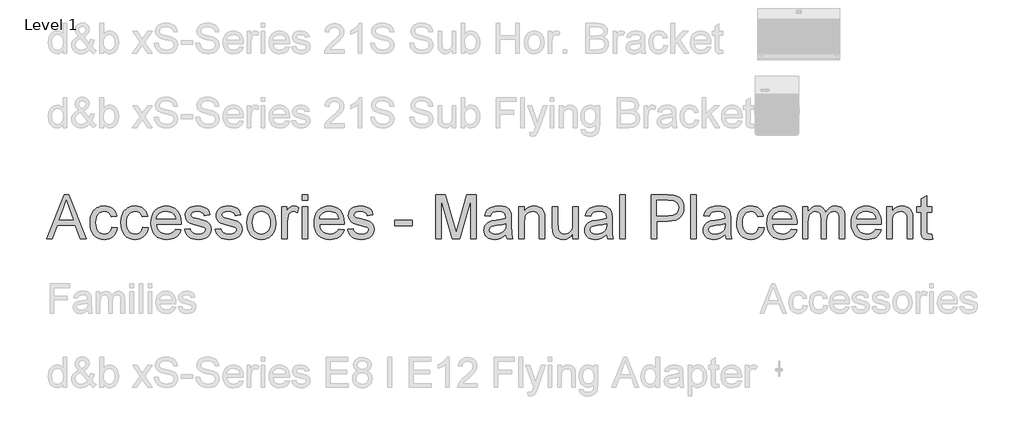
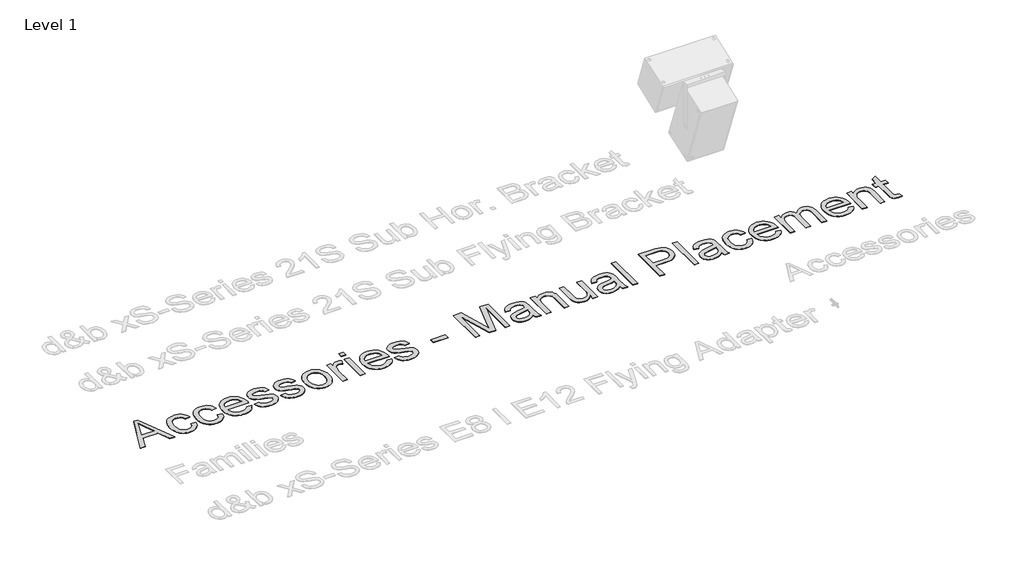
# One storey, part 19 of 55: 1 proxy.
"""IFC4 building model written with IfcOpenShell, lengths in millimetres."""

from ifc_helpers import new_model, si_unit, origin, origin_with_axes, place, context, project, spatial, polyline, outline, extrude, element, save

model = new_model("IFC4")

# Units and contexts
model_context = context("Model", 3, world=origin())
ifc_project = project(units=[si_unit("LENGTHUNIT", "METRE", prefix="MILLI")], contexts=[model_context])

# Site, building, storey
site = spatial("IfcSite", under=ifc_project)
building = spatial("IfcBuilding", under=site)
storey = spatial("IfcBuildingStorey", under=building, Name="Level 1", Elevation=0.0)

# Proxy
placement = place(None, origin())
element("IfcBuildingElementProxy", 1, Name="600mm Arial", ObjectType="600mm Arial", at=placement, inside=storey, context=model_context, shape_type="SweptSolid", body=[
    extrude(outline(polyline([(-21103.6078374, -25148.6945164), (-20867.7905297, -24557.9252857), (-20804.9059143, -24557.9252857), (-20569.2328374, -25148.6945164), (-20647.2616836, -25148.6945164), (-20714.7616836, -24964.0791318), (-20958.223222, -24964.0791318), (-21025.723222, -25148.6945164), (-21103.6078374, -25148.6945164)]), holes=[polyline([(-20931.1078374, -24890.232978), (-20741.7328374, -24890.232978), (-20795.098222, -24744.9925934), (-20836.4924528, -24631.7714395), (-20873.271299, -24732.3002857), (-20931.1078374, -24890.232978)])]), origin_with_axes(), (0.0, 0.0, 1.0), 5.0),
    extrude(outline(polyline([(-20222.646299, -24991.7714395), (-20148.8001451, -25001.0022087), (-20156.8319961, -25035.8474611), (-20169.3890874, -25066.6812953), (-20186.4714192, -25093.5037111), (-20208.0789913, -25116.3147087), (-20233.301347, -25134.5193361), (-20261.2280297, -25147.5226414), (-20291.8590393, -25155.3246246), (-20325.1943759, -25157.9252857), (-20366.6111427, -25154.2969804), (-20403.7460586, -25143.4120645), (-20436.5991235, -25125.2705381), (-20465.1703374, -25099.872401), (-20488.2968398, -25067.6954179), (-20504.8157701, -25029.217353), (-20514.7271283, -24984.4382063), (-20518.0309143, -24933.357978), (-20512.3878855, -24867.6428337), (-20505.3340994, -24838.0710188), (-20495.458799, -24810.6897087), (-20482.6943759, -24786.0487833), (-20466.973222, -24764.6981222), (-20448.2953374, -24746.6377256), (-20426.660722, -24731.8675934), (-20403.0474408, -24720.3832184), (-20378.4335586, -24712.1800934), (-20352.8190754, -24707.2582184), (-20326.2039913, -24705.6175934), (-20293.4410706, -24707.8711991), (-20263.8061547, -24714.6320164), (-20237.2992437, -24725.9000453), (-20213.9203374, -24741.6752857), (-20194.0660706, -24761.5971607), (-20178.1330778, -24785.3050934), (-20166.1213591, -24812.7990837), (-20158.0309143, -24844.0791318), (-20231.8770682, -24853.309901), (-20245.2725009, -24821.092353), (-20266.1318759, -24797.997401), (-20293.301347, -24784.0971607), (-20325.6270682, -24779.4637472), (-20350.7187148, -24781.7443962), (-20373.349424, -24788.5863434), (-20393.5191956, -24799.9895885), (-20411.2280297, -24815.9541318), (-20425.6465994, -24836.8495645), (-20435.9455778, -24863.045478), (-20442.1249648, -24894.5418722), (-20444.1847605, -24931.3387472), (-20442.1700369, -24968.6900092), (-20436.1258663, -25000.5514876), (-20426.0522485, -25026.9231823), (-20411.9491836, -25047.8050934), (-20394.5919119, -25063.6749852), (-20374.755674, -25075.0106222), (-20352.4404696, -25081.8120044), (-20327.646299, -25084.0791318), (-20289.4071163, -25078.4180741), (-20272.8701571, -25071.341752), (-20258.0549528, -25061.434901), (-20245.3761667, -25048.5893482), (-20235.2484624, -25032.6969203), (-20227.6718398, -25013.7576174), (-20222.646299, -24991.7714395)])), origin_with_axes(), (0.0, 0.0, 1.0), 5.0),
    extrude(outline(polyline([(-19807.2616836, -24991.7714395), (-19733.4155297, -25001.0022087), (-19741.4473807, -25035.8474611), (-19754.004472, -25066.6812953), (-19771.0868038, -25093.5037111), (-19792.6943759, -25116.3147087), (-19817.9167317, -25134.5193361), (-19845.8434143, -25147.5226414), (-19876.474424, -25155.3246246), (-19909.8097605, -25157.9252857), (-19951.2265273, -25154.2969804), (-19988.3614432, -25143.4120645), (-20021.2145081, -25125.2705381), (-20049.785722, -25099.872401), (-20072.9122244, -25067.6954179), (-20089.4311547, -25029.217353), (-20099.3425129, -24984.4382063), (-20102.646299, -24933.357978), (-20097.0032701, -24867.6428337), (-20089.9494841, -24838.0710188), (-20080.0741836, -24810.6897087), (-20067.3097605, -24786.0487833), (-20051.5886067, -24764.6981222), (-20032.910722, -24746.6377256), (-20011.2761067, -24731.8675934), (-19987.6628254, -24720.3832184), (-19963.0489432, -24712.1800934), (-19937.43446, -24707.2582184), (-19910.8193759, -24705.6175934), (-19878.0564552, -24707.8711991), (-19848.4215393, -24714.6320164), (-19821.9146283, -24725.9000453), (-19798.535722, -24741.6752857), (-19778.6814552, -24761.5971607), (-19762.7484624, -24785.3050934), (-19750.7367437, -24812.7990837), (-19742.646299, -24844.0791318), (-19816.4924528, -24853.309901), (-19829.8878855, -24821.092353), (-19850.7472605, -24797.997401), (-19877.9167317, -24784.0971607), (-19910.2424528, -24779.4637472), (-19935.3340994, -24781.7443962), (-19957.9648086, -24788.5863434), (-19978.1345802, -24799.9895885), (-19995.8434143, -24815.9541318), (-20010.2619841, -24836.8495645), (-20020.5609624, -24863.045478), (-20026.7403494, -24894.5418722), (-20028.8001451, -24931.3387472), (-20026.7854216, -24968.6900092), (-20020.7412509, -25000.5514876), (-20010.6676331, -25026.9231823), (-19996.5645682, -25047.8050934), (-19979.2072966, -25063.6749852), (-19959.3710586, -25075.0106222), (-19937.0558542, -25081.8120044), (-19912.2616836, -25084.0791318), (-19874.0225009, -25078.4180741), (-19857.4855417, -25071.341752), (-19842.6703374, -25061.434901), (-19829.9915514, -25048.5893482), (-19819.863847, -25032.6969203), (-19812.2872244, -25013.7576174), (-19807.2616836, -24991.7714395)])), origin_with_axes(), (0.0, 0.0, 1.0), 5.0),
    extrude(outline(polyline([(-19365.0501451, -25019.4637472), (-19292.646299, -25028.6945164), (-19303.747561, -25057.6939155), (-19318.7340393, -25083.2498049), (-19337.6057341, -25105.3621847), (-19360.3626451, -25124.0310549), (-19386.7703975, -25138.8597809), (-19416.5946163, -25149.451728), (-19449.8353014, -25155.8068962), (-19486.4924528, -25157.9252857), (-19532.3127653, -25154.2699371), (-19573.1390874, -25143.3038914), (-19608.9714192, -25125.0271486), (-19639.8097605, -25099.4397087), (-19664.6084384, -25067.2537111), (-19682.3217797, -25029.1812953), (-19692.9497845, -24985.2224611), (-19696.4924528, -24935.3772087), (-19692.9137268, -24883.841752), (-19682.177549, -24838.4180741), (-19664.2839192, -24799.1061751), (-19639.2328374, -24765.9060549), (-19608.4756259, -24739.529853), (-19573.4636067, -24720.6897087), (-19534.1967797, -24709.3856222), (-19490.6751451, -24705.6175934), (-19448.5552533, -24709.3766078), (-19410.4648086, -24720.653651), (-19376.403811, -24739.4487232), (-19346.3722605, -24765.7618241), (-19321.8575369, -24798.8898289), (-19304.3470201, -24838.1296126), (-19293.84071, -24883.4811751), (-19290.3386067, -24934.9445164), (-19290.771299, -24954.8483626), (-19622.646299, -24954.8483626), (-19618.3689552, -24984.3165116), (-19609.863847, -25010.1248049), (-19597.1309744, -25032.2732424), (-19580.1703374, -25050.7618241), (-19559.919436, -25065.3381462), (-19537.3157701, -25075.7498049), (-19512.3593398, -25081.9968001), (-19485.0501451, -25084.0791318), (-19445.7472605, -25080.2209587), (-19412.646299, -25068.6464395), (-19385.7472605, -25048.6344203), (-19365.0501451, -25019.4637472)]), holes=[polyline([(-19622.646299, -24881.0022087), (-19364.1847605, -24881.0022087), (-19374.1727413, -24841.9877857), (-19382.7634865, -24826.6452376), (-19393.7520682, -24814.0791318), (-19413.8902893, -24798.934901), (-19436.8049528, -24788.1175934), (-19462.4960586, -24781.6272087), (-19490.9636067, -24779.4637472), (-19516.9296523, -24781.1900092), (-19540.7412509, -24786.3687953), (-19562.3984023, -24795.0001054), (-19581.9011067, -24807.0839395), (-19598.2667917, -24822.0614034), (-19610.5128855, -24839.373603), (-19618.6393879, -24859.0205381), (-19622.646299, -24881.0022087)])]), origin_with_axes(), (0.0, 0.0, 1.0), 5.0),
    extrude(outline(polyline([(-19244.1847605, -25019.4637472), (-19170.3386067, -25010.232978), (-19165.8764672, -25027.0719203), (-19158.691972, -25041.8195164), (-19148.7851211, -25054.4757664), (-19136.1559143, -25065.0406703), (-19120.7682942, -25073.3699972), (-19102.5862028, -25079.3195164), (-19057.8386067, -25084.0791318), (-19013.6318759, -25079.716151), (-18996.4503855, -25074.2624251), (-18982.5501451, -25066.6272087), (-18964.160722, -25047.6608626), (-18958.0309143, -25025.6656703), (-18959.5723807, -25015.6957184), (-18964.1967797, -25006.8435549), (-18982.6943759, -24992.4925934), (-19010.3506259, -24983.1175934), (-19058.7039913, -24971.434901), (-19126.0958182, -24951.9457184), (-19169.9059143, -24935.3050934), (-19198.0489432, -24917.1500453), (-19218.4395682, -24893.1175934), (-19230.8253855, -24864.7401895), (-19234.9539913, -24833.5502857), (-19231.6366836, -24804.9385068), (-19221.6847605, -24778.5262472), (-19205.9996643, -24755.3591799), (-19185.4828374, -24736.482978), (-19165.0922124, -24724.6019684), (-19138.535722, -24714.6320164), (-19107.832597, -24707.8711991), (-19075.0020682, -24705.6175934), (-19026.9371643, -24709.2413914), (-18985.146299, -24720.1127857), (-18951.5405297, -24737.1680741), (-18928.0309143, -24759.3435549), (-18912.4539913, -24788.279853), (-18902.646299, -24825.6175934), (-18976.4924528, -24834.8483626), (-18985.8133663, -24811.6091799), (-19004.2568759, -24794.1031703), (-19032.0032701, -24783.123603), (-19069.2328374, -24779.4637472), (-19111.6366836, -24782.9613434), (-19139.9059143, -24793.4541318), (-19155.8073567, -24808.5983626), (-19161.1078374, -24826.0502857), (-19158.9083182, -24837.4084587), (-19152.3097605, -24847.5406703), (-19141.0237028, -24856.591151), (-19124.7616836, -24863.8387472), (-19061.1559143, -24879.559901), (-18952.7664913, -24914.3195164), (-18924.1366836, -24930.9421126), (-18902.4299528, -24953.6945164), (-18888.7460586, -24982.6488434), (-18884.1847605, -25017.8772087), (-18889.5393278, -25054.295478), (-18905.6030297, -25088.5502857), (-18931.7628855, -25117.9553337), (-18967.4059143, -25139.8243241), (-19010.458799, -25153.4000453), (-19058.848222, -25157.9252857), (-19098.5928134, -25155.7437953), (-19133.3073567, -25149.1993241), (-19162.9918518, -25138.2918722), (-19187.646299, -25123.0214395), (-19207.7845201, -25103.4601414), (-19223.9203374, -25079.6800934), (-19236.0537509, -25051.6812953), (-19244.1847605, -25019.4637472)])), origin_with_axes(), (0.0, 0.0, 1.0), 5.0),
    extrude(outline(polyline([(-18828.8001451, -25019.4637472), (-18754.9539913, -25010.232978), (-18750.4918518, -25027.0719203), (-18743.3073567, -25041.8195164), (-18733.4005057, -25054.4757664), (-18720.771299, -25065.0406703), (-18705.3836788, -25073.3699972), (-18687.2015874, -25079.3195164), (-18642.4539913, -25084.0791318), (-18598.2472605, -25079.716151), (-18581.0657701, -25074.2624251), (-18567.1655297, -25066.6272087), (-18548.7761067, -25047.6608626), (-18542.646299, -25025.6656703), (-18544.1877653, -25015.6957184), (-18548.8121643, -25006.8435549), (-18567.3097605, -24992.4925934), (-18594.9660105, -24983.1175934), (-18643.3193759, -24971.434901), (-18710.7112028, -24951.9457184), (-18754.521299, -24935.3050934), (-18782.6643278, -24917.1500453), (-18803.0549528, -24893.1175934), (-18815.4407701, -24864.7401895), (-18819.5693759, -24833.5502857), (-18816.2520682, -24804.9385068), (-18806.3001451, -24778.5262472), (-18790.615049, -24755.3591799), (-18770.098222, -24736.482978), (-18749.707597, -24724.6019684), (-18723.1511067, -24714.6320164), (-18692.4479817, -24707.8711991), (-18659.6174528, -24705.6175934), (-18611.552549, -24709.2413914), (-18569.7616836, -24720.1127857), (-18536.1559143, -24737.1680741), (-18512.646299, -24759.3435549), (-18497.0693759, -24788.279853), (-18487.2616836, -24825.6175934), (-18561.1078374, -24834.8483626), (-18570.4287509, -24811.6091799), (-18588.8722605, -24794.1031703), (-18616.6186547, -24783.123603), (-18653.848222, -24779.4637472), (-18696.2520682, -24782.9613434), (-18724.521299, -24793.4541318), (-18740.4227413, -24808.5983626), (-18745.723222, -24826.0502857), (-18743.5237028, -24837.4084587), (-18736.9251451, -24847.5406703), (-18725.6390874, -24856.591151), (-18709.3770682, -24863.8387472), (-18645.771299, -24879.559901), (-18537.3818759, -24914.3195164), (-18508.7520682, -24930.9421126), (-18487.0453374, -24953.6945164), (-18473.3614432, -24982.6488434), (-18468.8001451, -25017.8772087), (-18474.1547124, -25054.295478), (-18490.2184143, -25088.5502857), (-18516.3782701, -25117.9553337), (-18552.021299, -25139.8243241), (-18595.0741836, -25153.4000453), (-18643.4636067, -25157.9252857), (-18683.208198, -25155.7437953), (-18717.9227413, -25149.1993241), (-18747.6072365, -25138.2918722), (-18772.2616836, -25123.0214395), (-18792.3999047, -25103.4601414), (-18808.535722, -25079.6800934), (-18820.6691355, -25051.6812953), (-18828.8001451, -25019.4637472)])), origin_with_axes(), (0.0, 0.0, 1.0), 5.0),
    extrude(outline(polyline([(-18404.1847605, -24931.7714395), (-18400.1913711, -24875.5845405), (-18388.2112028, -24827.1680741), (-18368.2442557, -24786.5220405), (-18340.2905297, -24753.6464395), (-18312.1475009, -24732.6338193), (-18281.083799, -24717.6248049), (-18247.099424, -24708.6193962), (-18210.1943759, -24705.6175934), (-18169.4536908, -24709.2729419), (-18132.6162509, -24720.2389876), (-18099.6820562, -24738.5157304), (-18070.6511067, -24764.1031703), (-18046.9566956, -24796.1359227), (-18030.0321163, -24833.748603), (-18019.8773687, -24876.9412111), (-18016.4924528, -24925.7137472), (-18017.988847, -24965.2419924), (-18022.4780297, -25000.3171126), (-18029.9600009, -25030.9391078), (-18040.4347605, -25057.107978), (-18053.7715994, -25079.7116438), (-18069.8398086, -25099.638026), (-18088.6393879, -25116.8871246), (-18110.1703374, -25131.4589395), (-18133.5943158, -25143.0379659), (-18158.0729817, -25151.3086991), (-18183.606335, -25156.271139), (-18210.1943759, -25157.9252857), (-18251.5300129, -25154.2834587), (-18288.7100009, -25143.357978), (-18321.7343398, -25125.1488434), (-18350.6030297, -25099.6560549), (-18374.0450369, -25067.3123049), (-18390.7893278, -25028.5502857), (-18400.8359023, -24983.3699972), (-18404.1847605, -24931.7714395)]), holes=[polyline([(-18330.3386067, -24931.6272087), (-18328.2021884, -24967.4460188), (-18321.7929336, -24998.4601414), (-18311.1108422, -25024.6695765), (-18296.1559143, -25046.0743241), (-18277.9648086, -25062.7014275), (-18257.5741836, -25074.5779299), (-18234.9840393, -25081.7038313), (-18210.1943759, -25084.0791318), (-18185.5309143, -25081.6903097), (-18163.0309143, -25074.5238434), (-18142.6943759, -25062.5797328), (-18124.521299, -25045.857978), (-18109.5663711, -25024.2413914), (-18098.8842797, -24997.6127857), (-18092.4750249, -24965.9721607), (-18090.3386067, -24929.3195164), (-18092.4885466, -24894.6365236), (-18098.9383663, -24864.4336991), (-18109.6880658, -24838.7110429), (-18124.7376451, -24817.4685549), (-18142.9783302, -24800.8414515), (-18163.301347, -24788.9649491), (-18185.7066956, -24781.8390477), (-18210.1943759, -24779.4637472), (-18234.9840393, -24781.8300333), (-18257.5741836, -24788.9288914), (-18277.9648086, -24800.7603217), (-18296.1559143, -24817.3243241), (-18311.1108422, -24838.6659708), (-18321.7929336, -24864.8303337), (-18328.2021884, -24895.8174131), (-18330.3386067, -24931.6272087)])]), origin_with_axes(), (0.0, 0.0, 1.0), 5.0),
    extrude(outline(polyline([(-17933.4155297, -25148.6945164), (-17933.4155297, -24714.8483626), (-17868.8001451, -24714.8483626), (-17868.8001451, -24779.0310549), (-17844.9299528, -24741.8195164), (-17822.9347605, -24719.8964395), (-17800.8674528, -24709.1873049), (-17776.7809143, -24705.6175934), (-17740.0020682, -24711.3147087), (-17702.646299, -24728.4060549), (-17727.3097605, -24794.607978), (-17753.271299, -24783.2498049), (-17779.2328374, -24779.4637472), (-17801.2821163, -24783.1055741), (-17820.9876451, -24794.0310549), (-17836.9071163, -24811.4108626), (-17847.598222, -24834.4156703), (-17856.5765874, -24875.6656703), (-17859.5693759, -24920.6656703), (-17859.5693759, -25148.6945164), (-17933.4155297, -25148.6945164)])), origin_with_axes(), (0.0, 0.0, 1.0), 5.0),
    extrude(outline(polyline([(-17656.4924528, -24631.7714395), (-17656.4924528, -24557.9252857), (-17582.646299, -24557.9252857), (-17582.646299, -24631.7714395), (-17656.4924528, -24631.7714395)])), origin_with_axes(), (0.0, 0.0, 1.0), 5.0),
    extrude(outline(polyline([(-17656.4924528, -25148.6945164), (-17656.4924528, -24714.8483626), (-17582.646299, -24714.8483626), (-17582.646299, -25148.6945164), (-17656.4924528, -25148.6945164)])), origin_with_axes(), (0.0, 0.0, 1.0), 5.0),
    extrude(outline(polyline([(-17168.1270682, -25019.4637472), (-17095.723222, -25028.6945164), (-17106.8244841, -25057.6939155), (-17121.8109624, -25083.2498049), (-17140.6826571, -25105.3621847), (-17163.4395682, -25124.0310549), (-17189.8473206, -25138.8597809), (-17219.6715393, -25149.451728), (-17252.9122244, -25155.8068962), (-17289.5693759, -25157.9252857), (-17335.3896884, -25154.2699371), (-17376.2160105, -25143.3038914), (-17412.0483422, -25125.0271486), (-17442.8866836, -25099.4397087), (-17467.6853615, -25067.2537111), (-17485.3987028, -25029.1812953), (-17496.0267076, -24985.2224611), (-17499.5693759, -24935.3772087), (-17495.9906499, -24883.841752), (-17485.254472, -24838.4180741), (-17467.3608422, -24799.1061751), (-17442.3097605, -24765.9060549), (-17411.552549, -24739.529853), (-17376.5405297, -24720.6897087), (-17337.2737028, -24709.3856222), (-17293.7520682, -24705.6175934), (-17251.6321764, -24709.3766078), (-17213.5417317, -24720.653651), (-17179.4807341, -24739.4487232), (-17149.4491836, -24765.7618241), (-17124.93446, -24798.8898289), (-17107.4239432, -24838.1296126), (-17096.9176331, -24883.4811751), (-17093.4155297, -24934.9445164), (-17093.848222, -24954.8483626), (-17425.723222, -24954.8483626), (-17421.4458783, -24984.3165116), (-17412.9407701, -25010.1248049), (-17400.2078975, -25032.2732424), (-17383.2472605, -25050.7618241), (-17362.9963591, -25065.3381462), (-17340.3926932, -25075.7498049), (-17315.4362629, -25081.9968001), (-17288.1270682, -25084.0791318), (-17248.8241836, -25080.2209587), (-17215.723222, -25068.6464395), (-17188.8241836, -25048.6344203), (-17168.1270682, -25019.4637472)]), holes=[polyline([(-17425.723222, -24881.0022087), (-17167.2616836, -24881.0022087), (-17177.2496643, -24841.9877857), (-17185.8404095, -24826.6452376), (-17196.8289913, -24814.0791318), (-17216.9672124, -24798.934901), (-17239.8818759, -24788.1175934), (-17265.5729817, -24781.6272087), (-17294.0405297, -24779.4637472), (-17320.0065754, -24781.1900092), (-17343.818174, -24786.3687953), (-17365.4753254, -24795.0001054), (-17384.9780297, -24807.0839395), (-17401.3437148, -24822.0614034), (-17413.5898086, -24839.373603), (-17421.716311, -24859.0205381), (-17425.723222, -24881.0022087)])]), origin_with_axes(), (0.0, 0.0, 1.0), 5.0),
    extrude(outline(polyline([(-17047.2616836, -25019.4637472), (-16973.4155297, -25010.232978), (-16968.9533903, -25027.0719203), (-16961.7688951, -25041.8195164), (-16951.8620442, -25054.4757664), (-16939.2328374, -25065.0406703), (-16923.8452172, -25073.3699972), (-16905.6631259, -25079.3195164), (-16860.9155297, -25084.0791318), (-16816.708799, -25079.716151), (-16799.5273086, -25074.2624251), (-16785.6270682, -25066.6272087), (-16767.2376451, -25047.6608626), (-16761.1078374, -25025.6656703), (-16762.6493038, -25015.6957184), (-16767.2737028, -25006.8435549), (-16785.771299, -24992.4925934), (-16813.427549, -24983.1175934), (-16861.7809143, -24971.434901), (-16929.1727413, -24951.9457184), (-16972.9828374, -24935.3050934), (-17001.1258663, -24917.1500453), (-17021.5164913, -24893.1175934), (-17033.9023086, -24864.7401895), (-17038.0309143, -24833.5502857), (-17034.7136067, -24804.9385068), (-17024.7616836, -24778.5262472), (-17009.0765874, -24755.3591799), (-16988.5597605, -24736.482978), (-16968.1691355, -24724.6019684), (-16941.6126451, -24714.6320164), (-16910.9095201, -24707.8711991), (-16878.0789913, -24705.6175934), (-16830.0140874, -24709.2413914), (-16788.223222, -24720.1127857), (-16754.6174528, -24737.1680741), (-16731.1078374, -24759.3435549), (-16715.5309143, -24788.279853), (-16705.723222, -24825.6175934), (-16779.5693759, -24834.8483626), (-16788.8902893, -24811.6091799), (-16807.333799, -24794.1031703), (-16835.0801932, -24783.123603), (-16872.3097605, -24779.4637472), (-16914.7136067, -24782.9613434), (-16942.9828374, -24793.4541318), (-16958.8842797, -24808.5983626), (-16964.1847605, -24826.0502857), (-16961.9852413, -24837.4084587), (-16955.3866836, -24847.5406703), (-16944.1006259, -24856.591151), (-16927.8386067, -24863.8387472), (-16864.2328374, -24879.559901), (-16755.8434143, -24914.3195164), (-16727.2136067, -24930.9421126), (-16705.5068759, -24953.6945164), (-16691.8229817, -24982.6488434), (-16687.2616836, -25017.8772087), (-16692.6162509, -25054.295478), (-16708.6799528, -25088.5502857), (-16734.8398086, -25117.9553337), (-16770.4828374, -25139.8243241), (-16813.535722, -25153.4000453), (-16861.9251451, -25157.9252857), (-16901.6697365, -25155.7437953), (-16936.3842797, -25149.1993241), (-16966.0687749, -25138.2918722), (-16990.723222, -25123.0214395), (-17010.8614432, -25103.4601414), (-17026.9972605, -25079.6800934), (-17039.130674, -25051.6812953), (-17047.2616836, -25019.4637472)])), origin_with_axes(), (0.0, 0.0, 1.0), 5.0),
    extrude(outline(polyline([(-16410.3386067, -24973.309901), (-16410.3386067, -24899.4637472), (-16179.5693759, -24899.4637472), (-16179.5693759, -24973.309901), (-16410.3386067, -24973.309901)])), origin_with_axes(), (0.0, 0.0, 1.0), 5.0),
    extrude(outline(polyline([(-15856.4924528, -25148.6945164), (-15856.4924528, -24557.9252857), (-15729.8578374, -24557.9252857), (-15608.7039913, -24974.3195164), (-15584.1847605, -25061.2906703), (-15557.7905297, -24967.107978), (-15438.9443759, -24557.9252857), (-15311.8770682, -24557.9252857), (-15311.8770682, -25148.6945164), (-15385.723222, -25148.6945164), (-15385.723222, -24631.7714395), (-15534.1366836, -25148.6945164), (-15634.0886067, -25148.6945164), (-15782.646299, -24631.7714395), (-15782.646299, -25148.6945164), (-15856.4924528, -25148.6945164)])), origin_with_axes(), (0.0, 0.0, 1.0), 5.0),
    extrude(outline(polyline([(-14914.9539913, -25093.309901), (-14950.2364432, -25123.5623049), (-14986.5645682, -25143.357978), (-15024.7676932, -25154.2834587), (-15065.6751451, -25157.9252857), (-15098.5552533, -25155.7347809), (-15127.3878855, -25149.1632664), (-15152.1730417, -25138.2107424), (-15172.910722, -25122.8772087), (-15189.2854216, -25104.1362232), (-15200.9816355, -25082.9613434), (-15207.9993639, -25059.3525693), (-15210.3386067, -25033.309901), (-15206.8049528, -25002.6969203), (-15196.2039913, -24974.8964395), (-15179.8518278, -24951.0983626), (-15159.0645682, -24932.4925934), (-15134.6354817, -24918.4300934), (-15107.3578374, -24908.2618241), (-15043.4636067, -24897.1560549), (-14967.958799, -24885.4733626), (-14915.3866836, -24871.7714395), (-14914.9539913, -24855.3291318), (-14920.0381259, -24822.372401), (-14926.3932942, -24810.1668722), (-14935.2905297, -24800.809901), (-14950.6691355, -24791.4709587), (-14969.4011067, -24784.8002857), (-15016.9251451, -24779.4637472), (-15060.9155297, -24783.0154299), (-15091.6366836, -24793.670478), (-15112.5862028, -24813.3760068), (-15127.2616836, -24844.0791318), (-15201.1078374, -24834.8483626), (-15188.2893278, -24794.4637472), (-15169.160722, -24762.732978), (-15141.9371643, -24738.466151), (-15104.833799, -24720.4733626), (-15059.4551932, -24709.3315357), (-15007.4059143, -24705.6175934), (-14957.4840393, -24708.8988434), (-14917.910722, -24718.7425934), (-14888.0729817, -24733.544276), (-14867.3578374, -24751.6993241), (-14853.6198567, -24774.1452376), (-14844.7136067, -24801.8195164), (-14841.1078374, -24866.434901), (-14841.1078374, -24958.309901), (-14837.3578374, -25086.6031703), (-14831.8049528, -25118.3159107), (-14822.646299, -25148.6945164), (-14896.4924528, -25148.6945164), (-14908.3193759, -25123.0214395), (-14914.9539913, -25093.309901)]), holes=[polyline([(-14914.9539913, -24945.6175934), (-14964.5693759, -24957.9132664), (-15034.0886067, -24968.2618241), (-15097.6222605, -24980.232978), (-15114.1547124, -24988.4180741), (-15126.396299, -24999.7041318), (-15133.9684143, -25013.2257664), (-15136.4924528, -25028.1175934), (-15130.9936547, -25050.076728), (-15114.4972605, -25068.0695164), (-15087.363847, -25080.076728), (-15049.9539913, -25084.0791318), (-15010.2905297, -25079.6620645), (-14975.2424528, -25066.4108626), (-14946.8289913, -25046.8856222), (-14927.0693759, -25023.6464395), (-14918.3073567, -24999.7041318), (-14915.3866836, -24966.5310549), (-14914.9539913, -24945.6175934)])]), origin_with_axes(), (0.0, 0.0, 1.0), 5.0),
    extrude(outline(polyline([(-14739.5693759, -25148.6945164), (-14739.5693759, -24714.8483626), (-14665.723222, -24714.8483626), (-14665.723222, -24775.4252857), (-14640.068174, -24744.8844203), (-14609.2568759, -24723.0695164), (-14573.2893278, -24709.9805741), (-14532.1655297, -24705.6175934), (-14495.7652893, -24709.1332184), (-14462.4299528, -24719.6800934), (-14434.629472, -24735.9421126), (-14414.833799, -24756.6031703), (-14401.4023086, -24781.6091799), (-14392.6943759, -24810.9060549), (-14388.8001451, -24882.3002857), (-14388.8001451, -25148.6945164), (-14462.646299, -25148.6945164), (-14462.646299, -24892.2522087), (-14464.7737028, -24854.0671126), (-14471.1559143, -24826.9156703), (-14482.9287509, -24807.4625453), (-14501.2280297, -24792.372401), (-14524.6835586, -24782.6909107), (-14551.9251451, -24779.4637472), (-14574.3485225, -24781.2756462), (-14595.176347, -24786.7113434), (-14614.4086187, -24795.7708385), (-14632.0453374, -24808.4541318), (-14646.7794119, -24826.2035309), (-14657.3037509, -24850.4613434), (-14663.6183542, -24881.2275693), (-14665.723222, -24918.5022087), (-14665.723222, -25148.6945164), (-14739.5693759, -25148.6945164)])), origin_with_axes(), (0.0, 0.0, 1.0), 5.0),
    extrude(outline(polyline([(-14010.3386067, -25148.6945164), (-14010.3386067, -25074.1272087), (-14037.0573567, -25110.7888674), (-14068.1751451, -25136.9757664), (-14103.691972, -25152.6879059), (-14143.6078374, -25157.9252857), (-14179.5753855, -25154.247401), (-14213.0549528, -25143.2137472), (-14241.1438951, -25126.6272087), (-14260.9395682, -25106.2906703), (-14274.2628855, -25081.591151), (-14282.9347605, -25051.9156703), (-14287.2616836, -24983.2618241), (-14287.2616836, -24714.8483626), (-14213.4155297, -24714.8483626), (-14213.4155297, -24948.5022087), (-14212.2977413, -24995.232978), (-14208.9443759, -25023.7906703), (-14198.1811547, -25048.904853), (-14179.7376451, -25067.997401), (-14154.8398086, -25080.0586991), (-14124.7136067, -25084.0791318), (-14092.8566355, -25079.9685549), (-14063.0549528, -25067.6368241), (-14038.4816355, -25048.2197568), (-14022.3097605, -25022.8531703), (-14013.3313951, -24988.1115837), (-14010.3386067, -24940.5695164), (-14010.3386067, -24714.8483626), (-13936.4924528, -24714.8483626), (-13936.4924528, -25148.6945164), (-14010.3386067, -25148.6945164)])), origin_with_axes(), (0.0, 0.0, 1.0), 5.0),
    extrude(outline(polyline([(-13558.0309143, -25093.309901), (-13593.3133663, -25123.5623049), (-13629.6414913, -25143.357978), (-13667.8446163, -25154.2834587), (-13708.7520682, -25157.9252857), (-13741.6321764, -25155.7347809), (-13770.4648086, -25149.1632664), (-13795.2499648, -25138.2107424), (-13815.9876451, -25122.8772087), (-13832.3623446, -25104.1362232), (-13844.0585586, -25082.9613434), (-13851.0762869, -25059.3525693), (-13853.4155297, -25033.309901), (-13849.8818759, -25002.6969203), (-13839.2809143, -24974.8964395), (-13822.9287509, -24951.0983626), (-13802.1414913, -24932.4925934), (-13777.7124047, -24918.4300934), (-13750.4347605, -24908.2618241), (-13686.5405297, -24897.1560549), (-13611.035722, -24885.4733626), (-13558.4636067, -24871.7714395), (-13558.0309143, -24855.3291318), (-13563.115049, -24822.372401), (-13569.4702172, -24810.1668722), (-13578.3674528, -24800.809901), (-13593.7460586, -24791.4709587), (-13612.4780297, -24784.8002857), (-13660.0020682, -24779.4637472), (-13703.9924528, -24783.0154299), (-13734.7136067, -24793.670478), (-13755.6631259, -24813.3760068), (-13770.3386067, -24844.0791318), (-13844.1847605, -24834.8483626), (-13831.3662509, -24794.4637472), (-13812.2376451, -24762.732978), (-13785.0140874, -24738.466151), (-13747.910722, -24720.4733626), (-13702.5321163, -24709.3315357), (-13650.4828374, -24705.6175934), (-13600.5609624, -24708.8988434), (-13560.9876451, -24718.7425934), (-13531.1499047, -24733.544276), (-13510.4347605, -24751.6993241), (-13496.6967797, -24774.1452376), (-13487.7905297, -24801.8195164), (-13484.1847605, -24866.434901), (-13484.1847605, -24958.309901), (-13480.4347605, -25086.6031703), (-13474.8818759, -25118.3159107), (-13465.723222, -25148.6945164), (-13539.5693759, -25148.6945164), (-13551.396299, -25123.0214395), (-13558.0309143, -25093.309901)]), holes=[polyline([(-13558.0309143, -24945.6175934), (-13607.646299, -24957.9132664), (-13677.1655297, -24968.2618241), (-13740.6991836, -24980.232978), (-13757.2316355, -24988.4180741), (-13769.473222, -24999.7041318), (-13777.0453374, -25013.2257664), (-13779.5693759, -25028.1175934), (-13774.0705778, -25050.076728), (-13757.5741836, -25068.0695164), (-13730.4407701, -25080.076728), (-13693.0309143, -25084.0791318), (-13653.3674528, -25079.6620645), (-13618.3193759, -25066.4108626), (-13589.9059143, -25046.8856222), (-13570.146299, -25023.6464395), (-13561.3842797, -24999.7041318), (-13558.4636067, -24966.5310549), (-13558.0309143, -24945.6175934)])]), origin_with_axes(), (0.0, 0.0, 1.0), 5.0),
    extrude(outline(polyline([(-13382.646299, -25148.6945164), (-13382.646299, -24557.9252857), (-13308.8001451, -24557.9252857), (-13308.8001451, -25148.6945164), (-13382.646299, -25148.6945164)])), origin_with_axes(), (0.0, 0.0, 1.0), 5.0),
    extrude(outline(polyline([(-12958.0309143, -25148.6945164), (-12958.0309143, -24557.9252857), (-12739.0886067, -24557.9252857), (-12688.1030297, -24559.3315357), (-12650.8193759, -24563.5502857), (-12611.4624047, -24574.061103), (-12579.0645682, -24591.170478), (-12552.9768278, -24615.653651), (-12532.5501451, -24648.2858626), (-12519.3530297, -24686.7774491), (-12514.9539913, -24728.8387472), (-12517.9242437, -24765.1037712), (-12526.8350009, -24798.466151), (-12541.6862629, -24828.9258866), (-12562.4780297, -24856.482978), (-12591.0222004, -24879.325526), (-12629.130674, -24895.6416318), (-12676.8034504, -24905.4312953), (-12734.0405297, -24908.6945164), (-12884.1847605, -24908.6945164), (-12884.1847605, -25148.6945164), (-12958.0309143, -25148.6945164)]), holes=[polyline([(-12884.1847605, -24834.8483626), (-12729.7136067, -24834.8483626), (-12694.1967797, -24833.153651), (-12664.2328374, -24828.0695164), (-12639.8217797, -24819.5959587), (-12620.9636067, -24807.732978), (-12606.8920922, -24792.7960789), (-12596.8410105, -24775.1007664), (-12590.8103615, -24754.6470405), (-12588.8001451, -24731.434901), (-12593.5417317, -24698.2618241), (-12607.7664913, -24670.2810549), (-12629.707597, -24649.2233626), (-12657.598222, -24636.8195164), (-12686.083799, -24633.0334587), (-12731.4443759, -24631.7714395), (-12884.1847605, -24631.7714395), (-12884.1847605, -24834.8483626)])]), origin_with_axes(), (0.0, 0.0, 1.0), 5.0),
    extrude(outline(polyline([(-12422.646299, -25148.6945164), (-12422.646299, -24557.9252857), (-12348.8001451, -24557.9252857), (-12348.8001451, -25148.6945164), (-12422.646299, -25148.6945164)])), origin_with_axes(), (0.0, 0.0, 1.0), 5.0),
    extrude(outline(polyline([(-11961.1078374, -25093.309901), (-11996.3902893, -25123.5623049), (-12032.7184143, -25143.357978), (-12070.9215393, -25154.2834587), (-12111.8289913, -25157.9252857), (-12144.7090994, -25155.7347809), (-12173.5417317, -25149.1632664), (-12198.3268879, -25138.2107424), (-12219.0645682, -25122.8772087), (-12235.4392677, -25104.1362232), (-12247.1354817, -25082.9613434), (-12254.15321, -25059.3525693), (-12256.4924528, -25033.309901), (-12252.958799, -25002.6969203), (-12242.3578374, -24974.8964395), (-12226.005674, -24951.0983626), (-12205.2184143, -24932.4925934), (-12180.7893278, -24918.4300934), (-12153.5116836, -24908.2618241), (-12089.6174528, -24897.1560549), (-12014.1126451, -24885.4733626), (-11961.5405297, -24871.7714395), (-11961.1078374, -24855.3291318), (-11966.191972, -24822.372401), (-11972.5471403, -24810.1668722), (-11981.4443759, -24800.809901), (-11996.8229817, -24791.4709587), (-12015.5549528, -24784.8002857), (-12063.0789913, -24779.4637472), (-12107.0693759, -24783.0154299), (-12137.7905297, -24793.670478), (-12158.740049, -24813.3760068), (-12173.4155297, -24844.0791318), (-12247.2616836, -24834.8483626), (-12234.443174, -24794.4637472), (-12215.3145682, -24762.732978), (-12188.0910105, -24738.466151), (-12150.9876451, -24720.4733626), (-12105.6090393, -24709.3315357), (-12053.5597605, -24705.6175934), (-12003.6378855, -24708.8988434), (-11964.0645682, -24718.7425934), (-11934.2268278, -24733.544276), (-11913.5116836, -24751.6993241), (-11899.7737028, -24774.1452376), (-11890.8674528, -24801.8195164), (-11887.2616836, -24866.434901), (-11887.2616836, -24958.309901), (-11883.5116836, -25086.6031703), (-11877.958799, -25118.3159107), (-11868.8001451, -25148.6945164), (-11942.646299, -25148.6945164), (-11954.473222, -25123.0214395), (-11961.1078374, -25093.309901)]), holes=[polyline([(-11961.1078374, -24945.6175934), (-12010.723222, -24957.9132664), (-12080.2424528, -24968.2618241), (-12143.7761067, -24980.232978), (-12160.3085586, -24988.4180741), (-12172.5501451, -24999.7041318), (-12180.1222605, -25013.2257664), (-12182.646299, -25028.1175934), (-12177.1475009, -25050.076728), (-12160.6511067, -25068.0695164), (-12133.5176932, -25080.076728), (-12096.1078374, -25084.0791318), (-12056.4443759, -25079.6620645), (-12021.396299, -25066.4108626), (-11992.9828374, -25046.8856222), (-11973.223222, -25023.6464395), (-11964.4612028, -24999.7041318), (-11961.5405297, -24966.5310549), (-11961.1078374, -24945.6175934)])]), origin_with_axes(), (0.0, 0.0, 1.0), 5.0),
    extrude(outline(polyline([(-11508.8001451, -24991.7714395), (-11434.9539913, -25001.0022087), (-11442.9858422, -25035.8474611), (-11455.5429336, -25066.6812953), (-11472.6252653, -25093.5037111), (-11494.2328374, -25116.3147087), (-11519.4551932, -25134.5193361), (-11547.3818759, -25147.5226414), (-11578.0128855, -25155.3246246), (-11611.348222, -25157.9252857), (-11652.7649889, -25154.2969804), (-11689.8999047, -25143.4120645), (-11722.7529696, -25125.2705381), (-11751.3241836, -25099.872401), (-11774.450686, -25067.6954179), (-11790.9696163, -25029.217353), (-11800.8809744, -24984.4382063), (-11804.1847605, -24933.357978), (-11798.5417317, -24867.6428337), (-11791.4879456, -24838.0710188), (-11781.6126451, -24810.6897087), (-11768.848222, -24786.0487833), (-11753.1270682, -24764.6981222), (-11734.4491836, -24746.6377256), (-11712.8145682, -24731.8675934), (-11689.2012869, -24720.3832184), (-11664.5874047, -24712.1800934), (-11638.9729216, -24707.2582184), (-11612.3578374, -24705.6175934), (-11579.5949167, -24707.8711991), (-11549.9600009, -24714.6320164), (-11523.4530898, -24725.9000453), (-11500.0741836, -24741.6752857), (-11480.2199167, -24761.5971607), (-11464.286924, -24785.3050934), (-11452.2752052, -24812.7990837), (-11444.1847605, -24844.0791318), (-11518.0309143, -24853.309901), (-11531.426347, -24821.092353), (-11552.285722, -24797.997401), (-11579.4551932, -24784.0971607), (-11611.7809143, -24779.4637472), (-11636.872561, -24781.7443962), (-11659.5032701, -24788.5863434), (-11679.6730417, -24799.9895885), (-11697.3818759, -24815.9541318), (-11711.8004456, -24836.8495645), (-11722.099424, -24863.045478), (-11728.278811, -24894.5418722), (-11730.3386067, -24931.3387472), (-11728.3238831, -24968.6900092), (-11722.2797124, -25000.5514876), (-11712.2060946, -25026.9231823), (-11698.1030297, -25047.8050934), (-11680.7457581, -25063.6749852), (-11660.9095201, -25075.0106222), (-11638.5943158, -25081.8120044), (-11613.8001451, -25084.0791318), (-11575.5609624, -25078.4180741), (-11559.0240033, -25071.341752), (-11544.208799, -25061.434901), (-11531.5300129, -25048.5893482), (-11521.4023086, -25032.6969203), (-11513.825686, -25013.7576174), (-11508.8001451, -24991.7714395)])), origin_with_axes(), (0.0, 0.0, 1.0), 5.0),
    extrude(outline(polyline([(-11066.5886067, -25019.4637472), (-10994.1847605, -25028.6945164), (-11005.2860225, -25057.6939155), (-11020.2725009, -25083.2498049), (-11039.1441956, -25105.3621847), (-11061.9011067, -25124.0310549), (-11088.3088591, -25138.8597809), (-11118.1330778, -25149.451728), (-11151.3737629, -25155.8068962), (-11188.0309143, -25157.9252857), (-11233.8512268, -25154.2699371), (-11274.677549, -25143.3038914), (-11310.5098807, -25125.0271486), (-11341.348222, -25099.4397087), (-11366.1468999, -25067.2537111), (-11383.8602413, -25029.1812953), (-11394.4882461, -24985.2224611), (-11398.0309143, -24935.3772087), (-11394.4521884, -24883.841752), (-11383.7160105, -24838.4180741), (-11365.8223807, -24799.1061751), (-11340.771299, -24765.9060549), (-11310.0140874, -24739.529853), (-11275.0020682, -24720.6897087), (-11235.7352413, -24709.3856222), (-11192.2136067, -24705.6175934), (-11150.0937148, -24709.3766078), (-11112.0032701, -24720.653651), (-11077.9422725, -24739.4487232), (-11047.910722, -24765.7618241), (-11023.3959985, -24798.8898289), (-11005.8854817, -24838.1296126), (-10995.3791716, -24883.4811751), (-10991.8770682, -24934.9445164), (-10992.3097605, -24954.8483626), (-11324.1847605, -24954.8483626), (-11319.9074167, -24984.3165116), (-11311.4023086, -25010.1248049), (-11298.669436, -25032.2732424), (-11281.708799, -25050.7618241), (-11261.4578975, -25065.3381462), (-11238.8542317, -25075.7498049), (-11213.8978014, -25081.9968001), (-11186.5886067, -25084.0791318), (-11147.285722, -25080.2209587), (-11114.1847605, -25068.6464395), (-11087.285722, -25048.6344203), (-11066.5886067, -25019.4637472)]), holes=[polyline([(-11324.1847605, -24881.0022087), (-11065.723222, -24881.0022087), (-11075.7112028, -24841.9877857), (-11084.301948, -24826.6452376), (-11095.2905297, -24814.0791318), (-11115.4287509, -24798.934901), (-11138.3434143, -24788.1175934), (-11164.0345201, -24781.6272087), (-11192.5020682, -24779.4637472), (-11218.4681139, -24781.1900092), (-11242.2797124, -24786.3687953), (-11263.9368639, -24795.0001054), (-11283.4395682, -24807.0839395), (-11299.8052533, -24822.0614034), (-11312.051347, -24839.373603), (-11320.1778494, -24859.0205381), (-11324.1847605, -24881.0022087)])]), origin_with_axes(), (0.0, 0.0, 1.0), 5.0),
    extrude(outline(polyline([(-10918.0309143, -25148.6945164), (-10918.0309143, -24714.8483626), (-10844.1847605, -24714.8483626), (-10844.1847605, -24786.2425934), (-10821.973222, -24753.4481222), (-10793.4155297, -24727.7570164), (-10759.4852413, -24711.1524491), (-10721.1559143, -24705.6175934), (-10680.0862028, -24711.2606222), (-10662.6072365, -24718.3144083), (-10647.1655297, -24728.1897087), (-10622.5741836, -24755.2870645), (-10606.4924528, -24791.434901), (-10579.5753855, -24753.8898289), (-10548.8722605, -24727.0719203), (-10514.3830778, -24710.9811751), (-10476.1078374, -24705.6175934), (-10446.5450369, -24707.8486631), (-10420.5970201, -24714.5418722), (-10398.2637869, -24725.6972208), (-10379.5453374, -24741.3147087), (-10364.7481619, -24761.5746246), (-10354.1787509, -24786.6572568), (-10347.8371042, -24816.5626054), (-10345.723222, -24851.2906703), (-10345.723222, -25148.6945164), (-10419.5693759, -25148.6945164), (-10419.5693759, -24883.0214395), (-10421.2821163, -24846.1885068), (-10426.4203374, -24821.3627857), (-10436.0477413, -24804.3615837), (-10451.2280297, -24791.0022087), (-10470.7532701, -24782.3483626), (-10493.4155297, -24779.4637472), (-10514.3425129, -24781.3117039), (-10533.4215393, -24786.8555741), (-10550.6526091, -24796.0953578), (-10566.035722, -24809.0310549), (-10578.6874648, -24826.0412712), (-10587.724424, -24847.5046126), (-10593.1465994, -24873.4210789), (-10594.9539913, -24903.7906703), (-10594.9539913, -25148.6945164), (-10668.8001451, -25148.6945164), (-10668.8001451, -24874.8002857), (-10673.0729817, -24833.045478), (-10685.8914913, -24803.2618241), (-10695.8028494, -24792.8501655), (-10708.4455778, -24785.4132664), (-10723.8196764, -24780.951127), (-10741.9251451, -24779.4637472), (-10770.3746643, -24783.4300934), (-10796.5886067, -24795.3291318), (-10818.223222, -24814.872401), (-10832.9347605, -24841.7714395), (-10841.3722605, -24879.091151), (-10844.1847605, -24929.8964395), (-10844.1847605, -25148.6945164), (-10918.0309143, -25148.6945164)])), origin_with_axes(), (0.0, 0.0, 1.0), 5.0),
    extrude(outline(polyline([(-9931.2039913, -25019.4637472), (-9858.8001451, -25028.6945164), (-9869.9014071, -25057.6939155), (-9884.8878855, -25083.2498049), (-9903.7595802, -25105.3621847), (-9926.5164913, -25124.0310549), (-9952.9242437, -25138.8597809), (-9982.7484624, -25149.451728), (-10015.9891475, -25155.8068962), (-10052.646299, -25157.9252857), (-10098.4666115, -25154.2699371), (-10139.2929336, -25143.3038914), (-10175.1252653, -25125.0271486), (-10205.9636067, -25099.4397087), (-10230.7622845, -25067.2537111), (-10248.4756259, -25029.1812953), (-10259.1036307, -24985.2224611), (-10262.646299, -24935.3772087), (-10259.067573, -24883.841752), (-10248.3313951, -24838.4180741), (-10230.4377653, -24799.1061751), (-10205.3866836, -24765.9060549), (-10174.629472, -24739.529853), (-10139.6174528, -24720.6897087), (-10100.3506259, -24709.3856222), (-10056.8289913, -24705.6175934), (-10014.7090994, -24709.3766078), (-9976.6186547, -24720.653651), (-9942.5576571, -24739.4487232), (-9912.5261067, -24765.7618241), (-9888.0113831, -24798.8898289), (-9870.5008663, -24838.1296126), (-9859.9945562, -24883.4811751), (-9856.4924528, -24934.9445164), (-9856.9251451, -24954.8483626), (-10188.8001451, -24954.8483626), (-10184.5228014, -24984.3165116), (-10176.0176932, -25010.1248049), (-10163.2848206, -25032.2732424), (-10146.3241836, -25050.7618241), (-10126.0732821, -25065.3381462), (-10103.4696163, -25075.7498049), (-10078.513186, -25081.9968001), (-10051.2039913, -25084.0791318), (-10011.9011067, -25080.2209587), (-9978.8001451, -25068.6464395), (-9951.9011067, -25048.6344203), (-9931.2039913, -25019.4637472)]), holes=[polyline([(-10188.8001451, -24881.0022087), (-9930.3386067, -24881.0022087), (-9940.3265874, -24841.9877857), (-9948.9173326, -24826.6452376), (-9959.9059143, -24814.0791318), (-9980.0441355, -24798.934901), (-10002.958799, -24788.1175934), (-10028.6499047, -24781.6272087), (-10057.1174528, -24779.4637472), (-10083.0834985, -24781.1900092), (-10106.895097, -24786.3687953), (-10128.5522485, -24795.0001054), (-10148.0549528, -24807.0839395), (-10164.4206379, -24822.0614034), (-10176.6667317, -24839.373603), (-10184.7932341, -24859.0205381), (-10188.8001451, -24881.0022087)])]), origin_with_axes(), (0.0, 0.0, 1.0), 5.0),
    extrude(outline(polyline([(-9782.646299, -25148.6945164), (-9782.646299, -24714.8483626), (-9708.8001451, -24714.8483626), (-9708.8001451, -24775.4252857), (-9683.145097, -24744.8844203), (-9652.333799, -24723.0695164), (-9616.3662509, -24709.9805741), (-9575.2424528, -24705.6175934), (-9538.8422124, -24709.1332184), (-9505.5068759, -24719.6800934), (-9477.7063951, -24735.9421126), (-9457.910722, -24756.6031703), (-9444.4792317, -24781.6091799), (-9435.771299, -24810.9060549), (-9431.8770682, -24882.3002857), (-9431.8770682, -25148.6945164), (-9505.723222, -25148.6945164), (-9505.723222, -24892.2522087), (-9507.8506259, -24854.0671126), (-9514.2328374, -24826.9156703), (-9526.005674, -24807.4625453), (-9544.3049528, -24792.372401), (-9567.7604817, -24782.6909107), (-9595.0020682, -24779.4637472), (-9617.4254456, -24781.2756462), (-9638.2532701, -24786.7113434), (-9657.4855417, -24795.7708385), (-9675.1222605, -24808.4541318), (-9689.856335, -24826.2035309), (-9700.380674, -24850.4613434), (-9706.6952773, -24881.2275693), (-9708.8001451, -24918.5022087), (-9708.8001451, -25148.6945164), (-9782.646299, -25148.6945164)])), origin_with_axes(), (0.0, 0.0, 1.0), 5.0),
    extrude(outline(polyline([(-9173.4155297, -25087.107978), (-9164.1847605, -25150.857978), (-9219.4251451, -25157.9252857), (-9254.8698567, -25154.8603818), (-9281.3001451, -25145.6656703), (-9299.9780297, -25131.4949972), (-9312.1655297, -25113.5022087), (-9318.8722605, -25082.6007664), (-9321.1078374, -25029.7041318), (-9321.1078374, -24788.6945164), (-9376.4924528, -24788.6945164), (-9376.4924528, -24714.8483626), (-9321.1078374, -24714.8483626), (-9321.1078374, -24609.4156703), (-9247.2616836, -24566.0022087), (-9247.2616836, -24714.8483626), (-9173.4155297, -24714.8483626), (-9173.4155297, -24788.6945164), (-9247.2616836, -24788.6945164), (-9247.2616836, -25027.5406703), (-9243.3674528, -25065.6175934), (-9230.7472605, -25079.1031703), (-9220.0922124, -25082.8351414), (-9205.5789913, -25084.0791318), (-9173.4155297, -25087.107978)])), origin_with_axes(), (0.0, 0.0, 1.0), 5.0),
])

save(model, "model.ifc")
